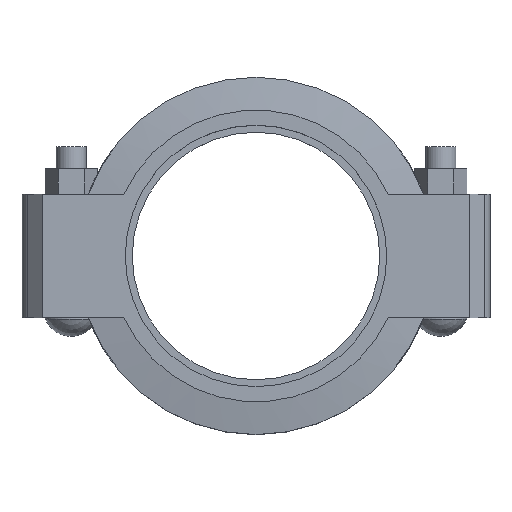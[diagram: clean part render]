
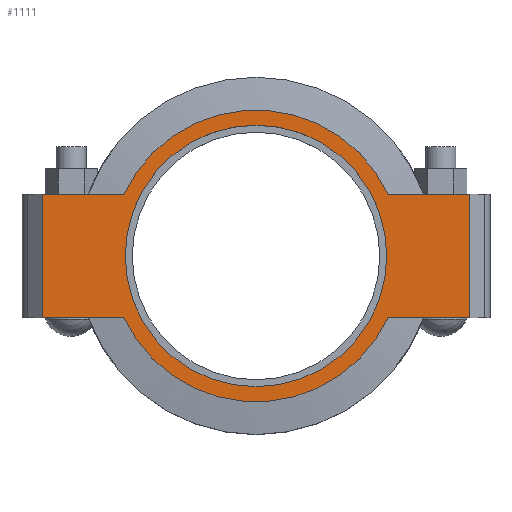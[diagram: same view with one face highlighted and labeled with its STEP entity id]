
A CAD part, top view. The second image highlights one B-rep face of the part: STEP entity #1111.
In plain terms, the highlighted planar face has unit normal (0, 0, 1).
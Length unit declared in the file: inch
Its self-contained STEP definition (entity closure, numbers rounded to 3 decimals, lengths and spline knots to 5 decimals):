
#75=FACE_BOUND('',#226,.T.);
#105=PLANE('',#1226);
#153=FACE_OUTER_BOUND('',#225,.T.);
#225=EDGE_LOOP('',(#888,#889,#890,#891,#892,#893,#894,#895));
#226=EDGE_LOOP('',(#896));
#298=LINE('',#1752,#385);
#313=LINE('',#1811,#400);
#321=LINE('',#1841,#408);
#323=LINE('',#1844,#410);
#324=LINE('',#1849,#411);
#325=LINE('',#1850,#412);
#385=VECTOR('',#1433,0.3937);
#400=VECTOR('',#1468,0.3937);
#408=VECTOR('',#1488,0.3937);
#410=VECTOR('',#1492,0.3937);
#411=VECTOR('',#1497,0.3937);
#412=VECTOR('',#1498,0.3937);
#437=CIRCLE('',#1183,3.25);
#453=CIRCLE('',#1227,3.625);
#454=CIRCLE('',#1228,3.625);
#480=VERTEX_POINT('',#1644);
#515=VERTEX_POINT('',#1749);
#516=VERTEX_POINT('',#1751);
#537=VERTEX_POINT('',#1806);
#538=VERTEX_POINT('',#1810);
#547=VERTEX_POINT('',#1836);
#548=VERTEX_POINT('',#1840);
#549=VERTEX_POINT('',#1846);
#550=VERTEX_POINT('',#1848);
#581=EDGE_CURVE('',#480,#480,#437,.T.);
#632=EDGE_CURVE('',#516,#515,#298,.T.);
#657=EDGE_CURVE('',#538,#537,#313,.T.);
#670=EDGE_CURVE('',#548,#547,#321,.T.);
#672=EDGE_CURVE('',#548,#515,#323,.T.);
#673=EDGE_CURVE('',#547,#549,#453,.T.);
#674=EDGE_CURVE('',#549,#550,#324,.T.);
#675=EDGE_CURVE('',#538,#550,#325,.T.);
#676=EDGE_CURVE('',#537,#516,#454,.T.);
#888=ORIENTED_EDGE('',*,*,#672,.F.);
#889=ORIENTED_EDGE('',*,*,#670,.T.);
#890=ORIENTED_EDGE('',*,*,#673,.T.);
#891=ORIENTED_EDGE('',*,*,#674,.T.);
#892=ORIENTED_EDGE('',*,*,#675,.F.);
#893=ORIENTED_EDGE('',*,*,#657,.T.);
#894=ORIENTED_EDGE('',*,*,#676,.T.);
#895=ORIENTED_EDGE('',*,*,#632,.T.);
#896=ORIENTED_EDGE('',*,*,#581,.T.);
#1111=ADVANCED_FACE('',(#153,#75),#105,.T.);
#1183=AXIS2_PLACEMENT_3D('',#1646,#1337,#1338);
#1226=AXIS2_PLACEMENT_3D('',#1845,#1493,#1494);
#1227=AXIS2_PLACEMENT_3D('',#1847,#1495,#1496);
#1228=AXIS2_PLACEMENT_3D('',#1851,#1499,#1500);
#1337=DIRECTION('center_axis',(0.,0.,-1.));
#1338=DIRECTION('ref_axis',(1.,0.,0.));
#1433=DIRECTION('',(1.,0.,0.));
#1468=DIRECTION('',(1.,0.,0.));
#1488=DIRECTION('',(-1.,0.,0.));
#1492=DIRECTION('',(0.,-1.,0.));
#1493=DIRECTION('center_axis',(0.,0.,1.));
#1494=DIRECTION('ref_axis',(-1.,0.,0.));
#1495=DIRECTION('center_axis',(0.,0.,1.));
#1496=DIRECTION('ref_axis',(1.,0.,0.));
#1497=DIRECTION('',(-1.,0.,0.));
#1498=DIRECTION('',(0.,1.,0.));
#1499=DIRECTION('center_axis',(0.,0.,1.));
#1500=DIRECTION('ref_axis',(1.,0.,0.));
#1644=CARTESIAN_POINT('',(-3.25,0.,1.065));
#1646=CARTESIAN_POINT('Origin',(0.,0.,1.065));
#1749=CARTESIAN_POINT('',(5.315,-1.53125,1.065));
#1751=CARTESIAN_POINT('',(3.28571,-1.53125,1.065));
#1752=CARTESIAN_POINT('',(-5.815,-1.53125,1.065));
#1806=CARTESIAN_POINT('',(-3.28571,-1.53125,1.065));
#1810=CARTESIAN_POINT('',(-5.315,-1.53125,1.065));
#1811=CARTESIAN_POINT('',(-5.815,-1.53125,1.065));
#1836=CARTESIAN_POINT('',(3.28571,1.53125,1.065));
#1840=CARTESIAN_POINT('',(5.315,1.53125,1.065));
#1841=CARTESIAN_POINT('',(5.815,1.53125,1.065));
#1844=CARTESIAN_POINT('',(5.315,-0.76562,1.065));
#1845=CARTESIAN_POINT('Origin',(0.,0.,
1.065));
#1846=CARTESIAN_POINT('',(-3.28571,1.53125,1.065));
#1847=CARTESIAN_POINT('Origin',(0.,0.,1.065));
#1848=CARTESIAN_POINT('',(-5.315,1.53125,1.065));
#1849=CARTESIAN_POINT('',(5.815,1.53125,1.065));
#1850=CARTESIAN_POINT('',(-5.315,0.76563,1.065));
#1851=CARTESIAN_POINT('Origin',(0.,0.,1.065));
